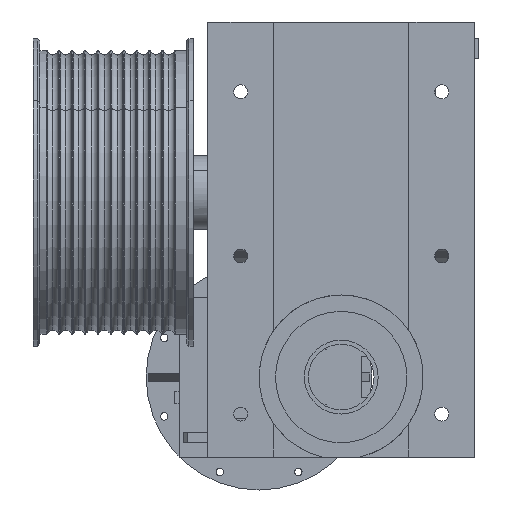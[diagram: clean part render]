
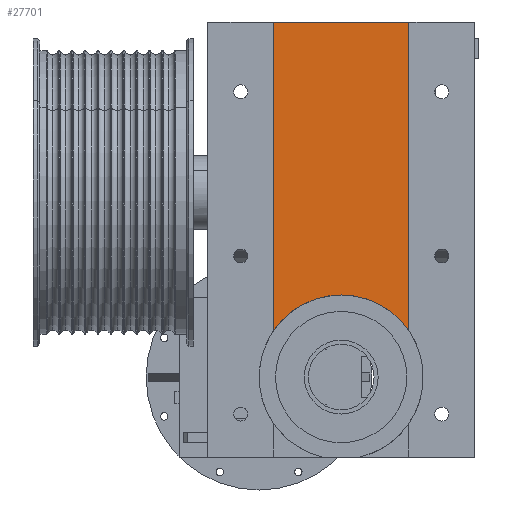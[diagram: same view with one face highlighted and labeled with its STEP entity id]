
A CAD part, front view. The second image highlights one B-rep face of the part: STEP entity #27701.
In plain terms, the highlighted planar face has unit normal (0, -1, 0).
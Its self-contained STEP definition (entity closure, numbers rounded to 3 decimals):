
#1744 = DIRECTION ( 'NONE',  ( 0., 0., 1. ) ) ;
#2058 = DIRECTION ( 'NONE',  ( 0., 0., 1. ) ) ;
#2059 = DIRECTION ( 'NONE',  ( 0., 1., 0. ) ) ;
#2060 = CARTESIAN_POINT ( 'NONE',  ( 0., 24., -450. ) ) ;
#2061 = AXIS2_PLACEMENT_3D ( 'NONE', #2060, #2059, #2058 ) ;
#2066 = CIRCLE ( 'NONE', #2061, 200. ) ;
#2116 = CARTESIAN_POINT ( 'NONE',  ( 165., 24., -336.973 ) ) ;
#2117 = CARTESIAN_POINT ( 'NONE',  ( 0., 24., -250. ) ) ;
#2128 = DIRECTION ( 'NONE',  ( -1., 0., 0. ) ) ;
#2129 = VECTOR ( 'NONE', #2128, 1000. ) ;
#2130 = CARTESIAN_POINT ( 'NONE',  ( 500000., 24., 415. ) ) ;
#2131 = LINE ( 'NONE', #2130, #2129 ) ;
#2160 = DIRECTION ( 'NONE',  ( 0., 0., 1. ) ) ;
#2161 = DIRECTION ( 'NONE',  ( 0., 1., 0. ) ) ;
#2162 = AXIS2_PLACEMENT_3D ( 'NONE', #2164, #2161, #2160 ) ;
#2164 = CARTESIAN_POINT ( 'NONE',  ( 500000., 24., 415. ) ) ;
#2165 = PLANE ( 'NONE',  #2162 ) ;
#2166 = FACE_OUTER_BOUND ( 'NONE', #27702, .T. ) ;
#2167 = DIRECTION ( 'NONE',  ( 0., 0., -1. ) ) ;
#2168 = VECTOR ( 'NONE', #2167, 1000. ) ;
#2169 = CARTESIAN_POINT ( 'NONE',  ( 165., 24., 415. ) ) ;
#2170 = LINE ( 'NONE', #2169, #2168 ) ;
#2171 = CARTESIAN_POINT ( 'NONE',  ( 165., 24., 415. ) ) ;
#2242 = DIRECTION ( 'NONE',  ( 0., 1., 0. ) ) ;
#2243 = CARTESIAN_POINT ( 'NONE',  ( 0., 24., -450. ) ) ;
#2244 = AXIS2_PLACEMENT_3D ( 'NONE', #2243, #2242, #1744 ) ;
#2245 = CIRCLE ( 'NONE', #2244, 200. ) ;
#2247 = CARTESIAN_POINT ( 'NONE',  ( -165., 24., -336.973 ) ) ;
#2248 = CARTESIAN_POINT ( 'NONE',  ( -165., 24., 415. ) ) ;
#2249 = DIRECTION ( 'NONE',  ( 0., 0., -1. ) ) ;
#2250 = VECTOR ( 'NONE', #2249, 1000. ) ;
#2251 = CARTESIAN_POINT ( 'NONE',  ( -165., 24., 415. ) ) ;
#2252 = LINE ( 'NONE', #2251, #2250 ) ;
#27649 = EDGE_CURVE ( 'NONE', #27650, #27651, #2066, .T. ) ;
#27650 = VERTEX_POINT ( 'NONE', #2117 ) ;
#27651 = VERTEX_POINT ( 'NONE', #2116 ) ;
#27684 = ORIENTED_EDGE ( 'NONE', *, *, #27700, .F. ) ;
#27685 = ORIENTED_EDGE ( 'NONE', *, *, #27686, .T. ) ;
#27686 = EDGE_CURVE ( 'NONE', #27698, #27758, #2131, .T. ) ;
#27698 = VERTEX_POINT ( 'NONE', #2171 ) ;
#27700 = EDGE_CURVE ( 'NONE', #27698, #27651, #2170, .T. ) ;
#27701 = ADVANCED_FACE ( 'NONE', ( #2166 ), #2165, .F. ) ;
#27702 = EDGE_LOOP ( 'NONE', ( #27703, #27760, #27762, #27684, #27685 ) ) ;
#27703 = ORIENTED_EDGE ( 'NONE', *, *, #27757, .T. ) ;
#27757 = EDGE_CURVE ( 'NONE', #27758, #27759, #2252, .T. ) ;
#27758 = VERTEX_POINT ( 'NONE', #2248 ) ;
#27759 = VERTEX_POINT ( 'NONE', #2247 ) ;
#27760 = ORIENTED_EDGE ( 'NONE', *, *, #27761, .T. ) ;
#27761 = EDGE_CURVE ( 'NONE', #27759, #27650, #2245, .T. ) ;
#27762 = ORIENTED_EDGE ( 'NONE', *, *, #27649, .T. ) ;
